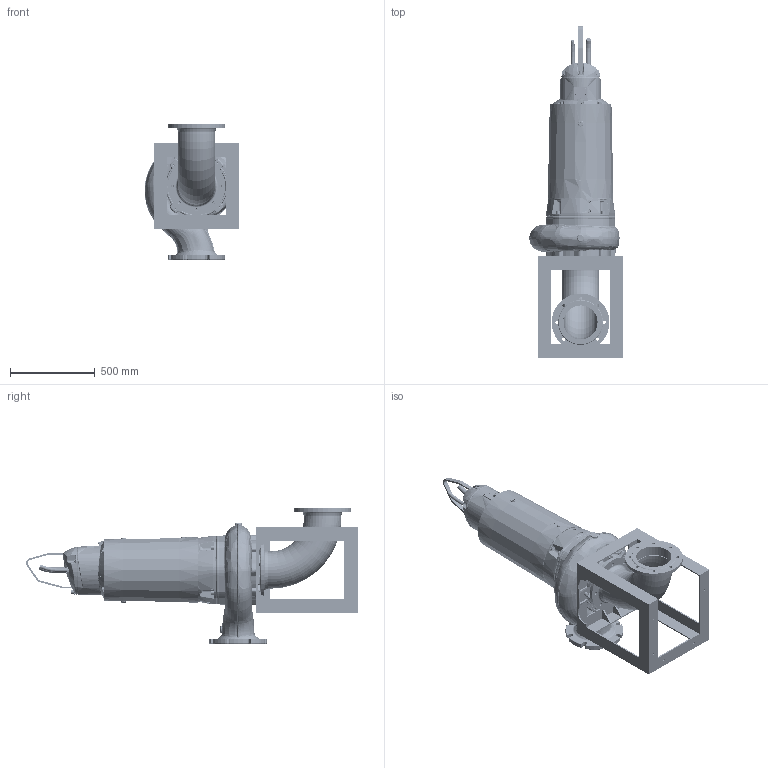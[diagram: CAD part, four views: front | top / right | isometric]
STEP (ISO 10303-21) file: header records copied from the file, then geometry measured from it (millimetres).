
FILE_DESCRIPTION (( 'STEP AP203' ), '1' );
FILE_NAME ('310101572.STEP', '2020-09-01T07:48:58', ( '' ), ( '' ), 'SwSTEP 2.0', 'SolidWorks 2017', '' );
FILE_SCHEMA (( 'CONFIG_CONTROL_DESIGN' ));
Products named in the file (2): 310101572
Bounding box: 558.3 x 1954.4 x 804 mm (x, y, z)
Volume: 57588485 mm3; surface area: 9675258.7 mm2
Topology: 64 solids, 64 shells, 8292 faces, 19687 edges, 11226 vertices
Faces by surface type: bspline 2687, cylinder 2013, plane 1888, torus 865, sphere 461, cone 378
Full cylindrical faces by diameter (mm): 2.295 x2, 2.9 x4, 3 x4, 3.2 x4, 4.2 x3, 5 x14, 5.3 x4, 5.9 x3, 6 x13, 6.6 x1, 6.8 x10, 8 x16, 8.5 x4, 9 x5, 10 x15, 10.2 x12, 10.5 x3, 11 x11, 12 x26, 12.4 x1, 13 x18, 14 x13, 15 x3, 16 x28, 16.5 x2, 17 x5, 17.5 x8, 17.89 x1, 18 x39, 20 x20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
Entity records: 547230 total; most frequent: CARTESIAN_POINT 383917, ORIENTED_EDGE 36122, DIRECTION 29531, EDGE_CURVE 18061, AXIS2_PLACEMENT_3D 12111, VERTEX_POINT 10979, EDGE_LOOP 9596, FACE_OUTER_BOUND 8867
